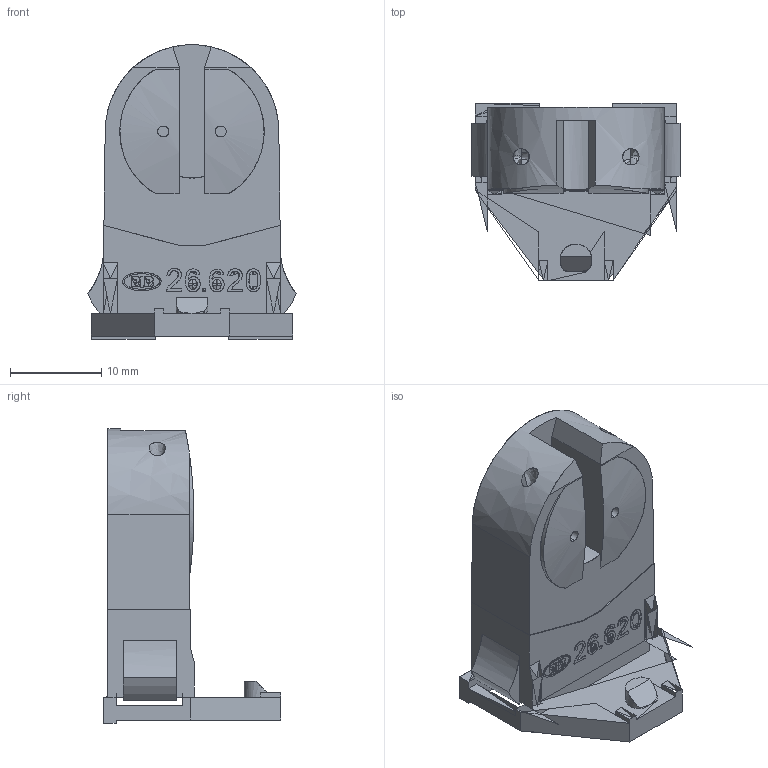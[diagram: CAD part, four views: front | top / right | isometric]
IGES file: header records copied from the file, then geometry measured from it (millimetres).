
Global section: file name: C:\Programme\CoreTechnologie\in\00A-20Q-06.igs; native system: CT CoreTechnologie 3D Evolution; preprocessor: 2005; author: assmuth; date: 060901.094633; units: millimetre
Bounding box: 22.76 x 19.4 x 32.22 mm (x, y, z)
Surface area: 3381 mm2 (no closed solid volume)
Topology: 0 solids, 0 shells, 274 faces, 1357 edges, 1303 vertices
Faces by surface type: bspline 274
